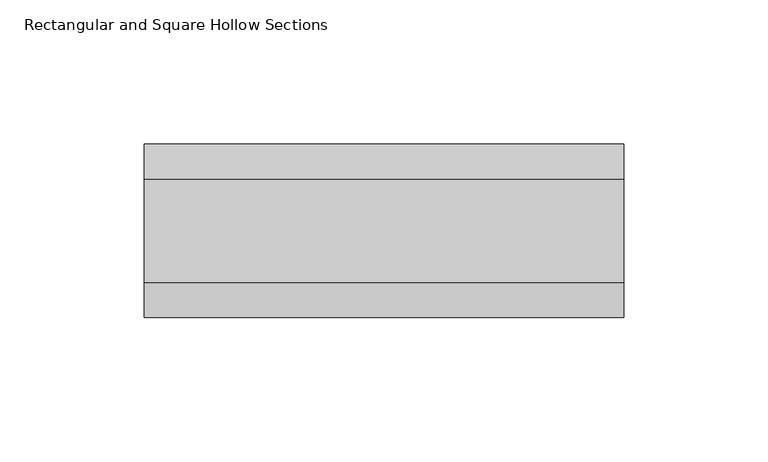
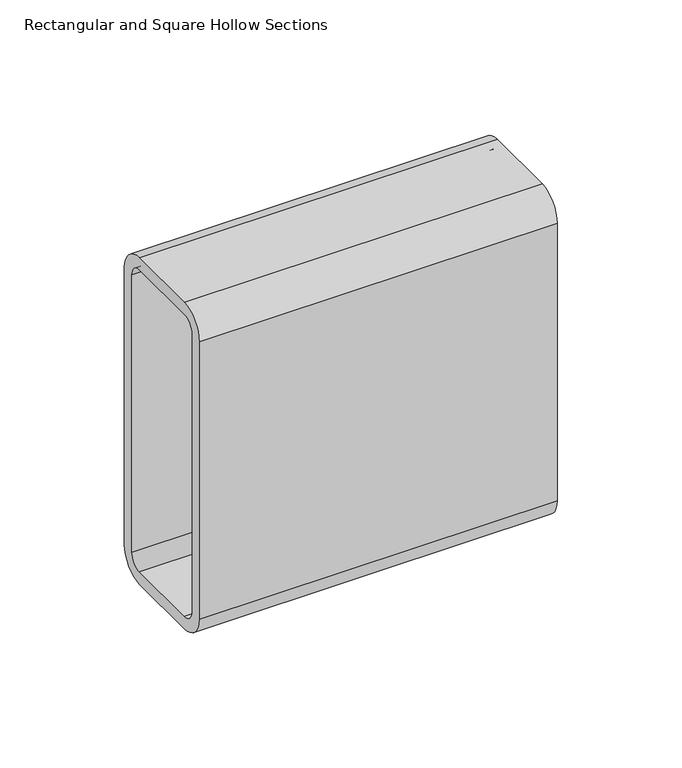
"""IFC4 building model written with IfcOpenShell, lengths in millimetres: beam geometry, Rectangular and Square Hollow Sections : TREC160x60x6."""

from ifc_helpers import new_model, si_unit, point, frame, frame_2d, origin, place, context, project, spatial, polyline, circle_curve, trimmed, segment, composite_curve, outline, extrude, source, transform, mapped, element, save


def rectangular_and_square_hollow_sections_784448e1(model_context):
    return source(origin(), model_context, "Body", "SweptSolid", [
        extrude(outline(composite_curve([segment(polyline([(30.0, 68.0), (30.0, -68.0)]), True, "CONTINUOUS"), segment(trimmed(circle_curve(frame_2d((18.0, -68.0)), 12.0), [point((30.0, -68.0))], [point((18.0, -80.0))], False, "CARTESIAN"), True, "CONTINUOUS"), segment(polyline([(18.0, -80.0), (-18.0, -80.0)]), True, "CONTINUOUS"), segment(trimmed(circle_curve(frame_2d((-18.0, -68.0)), 12.0), [point((-18.0, -80.0))], [point((-30.0, -68.0))], False, "CARTESIAN"), True, "CONTINUOUS"), segment(polyline([(-30.0, -68.0), (-30.0, 68.0)]), True, "CONTINUOUS"), segment(trimmed(circle_curve(frame_2d((-18.0, 68.0)), 12.0), [point((-30.0, 68.0))], [point((-18.0, 80.0))], False, "CARTESIAN"), True, "CONTINUOUS"), segment(polyline([(-18.0, 80.0), (18.0, 80.0)]), True, "CONTINUOUS"), segment(trimmed(circle_curve(frame_2d((18.0, 68.0)), 12.0), [point((18.0, 80.0))], [point((30.0, 68.0))], False, "CARTESIAN"), True, "CONTINUOUS")], self_intersect=False), holes=[composite_curve([segment(trimmed(circle_curve(frame_2d((-18.0, 68.0)), 6.0), [point((-18.0, 74.0))], [point((-24.0, 68.0))], True, "CARTESIAN"), True, "CONTINUOUS"), segment(polyline([(-24.0, 68.0), (-24.0, -68.0)]), True, "CONTINUOUS"), segment(trimmed(circle_curve(frame_2d((-18.0, -68.0)), 6.0), [point((-24.0, -68.0))], [point((-18.0, -74.0))], True, "CARTESIAN"), True, "CONTINUOUS"), segment(polyline([(-18.0, -74.0), (18.0, -74.0)]), True, "CONTINUOUS"), segment(trimmed(circle_curve(frame_2d((18.0, -68.0)), 6.0), [point((18.0, -74.0))], [point((24.0, -68.0))], True, "CARTESIAN"), True, "CONTINUOUS"), segment(polyline([(24.0, -68.0), (24.0, 68.0)]), True, "CONTINUOUS"), segment(trimmed(circle_curve(frame_2d((18.0, 68.0)), 6.0), [point((24.0, 68.0))], [point((18.0, 74.0))], True, "CARTESIAN"), True, "CONTINUOUS"), segment(polyline([(18.0, 74.0), (-18.0, 74.0)]), True, "CONTINUOUS")], self_intersect=False)]), frame((-76.5, 0.0, 0.0), z_axis=(1.0, 0.0, 0.0), x_axis=(0.0, 1.0, 0.0)), (0.0, 0.0, 1.0), 166.0000009),
    ])


if __name__ == "__main__":
    model = new_model("IFC4")
    model_context = context("Model", 3, world=origin())
    ifc_project = project(units=[si_unit("LENGTHUNIT", "METRE", prefix="MILLI")], contexts=[model_context])
    site = spatial("IfcSite", under=ifc_project)
    building = spatial("IfcBuilding", under=site)
    placement = place(None, origin())
    rectangular_and_square_hollow_sections_shape = rectangular_and_square_hollow_sections_784448e1(model_context)
    element("IfcBeam", 1, ObjectType="Rectangular and Square Hollow Sections : TREC160x60x6", at=placement, inside=building, context=model_context, shape_type="MappedRepresentation", body=[
        mapped(rectangular_and_square_hollow_sections_shape, transform((0.0, 0.0, 0.0), x_axis=(1.0, 0.0, 0.0), y_axis=(0.0, 1.0, 0.0), z_axis=(0.0, 0.0, 1.0))),
    ])
    save(model, "model.ifc")
